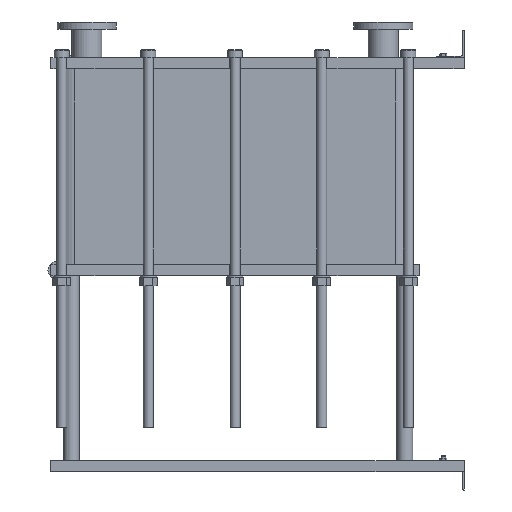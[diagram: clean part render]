
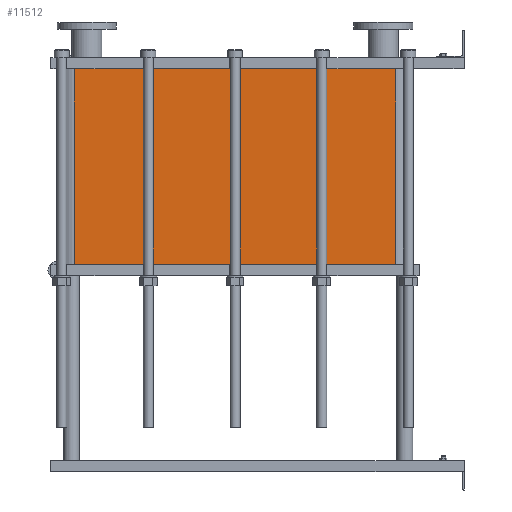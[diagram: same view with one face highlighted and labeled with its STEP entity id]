
A CAD part, left-side view. The second image highlights one B-rep face of the part: STEP entity #11512.
In plain terms, the highlighted planar face has unit normal (-1, 0, 0).
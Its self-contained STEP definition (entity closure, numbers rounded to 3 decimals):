
#1129=LINE('',#23232,#2102);
#1130=LINE('',#23236,#2103);
#1131=LINE('',#23238,#2104);
#1132=LINE('',#23239,#2105);
#2102=VECTOR('',#15887,10.);
#2103=VECTOR('',#15892,10.);
#2104=VECTOR('',#15893,10.);
#2105=VECTOR('',#15894,10.);
#3267=FACE_OUTER_BOUND('',#4093,.T.);
#4093=EDGE_LOOP('',(#10103,#10104,#10105,#10106));
#5642=VERTEX_POINT('',#23229);
#5643=VERTEX_POINT('',#23231);
#5644=VERTEX_POINT('',#23235);
#5645=VERTEX_POINT('',#23237);
#7159=EDGE_CURVE('',#5643,#5642,#1129,.T.);
#7161=EDGE_CURVE('',#5642,#5644,#1130,.T.);
#7162=EDGE_CURVE('',#5645,#5644,#1131,.T.);
#7163=EDGE_CURVE('',#5645,#5643,#1132,.T.);
#10103=ORIENTED_EDGE('',*,*,#7161,.T.);
#10104=ORIENTED_EDGE('',*,*,#7162,.F.);
#10105=ORIENTED_EDGE('',*,*,#7163,.T.);
#10106=ORIENTED_EDGE('',*,*,#7159,.T.);
#10857=PLANE('',#12751);
#11512=ADVANCED_FACE('',(#3267),#10857,.T.);
#12751=AXIS2_PLACEMENT_3D('',#23234,#15890,#15891);
#15887=DIRECTION('',(0.,0.,-1.));
#15890=DIRECTION('center_axis',(-1.,0.,0.));
#15891=DIRECTION('ref_axis',(0.,1.,0.));
#15892=DIRECTION('',(0.,-1.,0.));
#15893=DIRECTION('',(0.,0.,-1.));
#15894=DIRECTION('',(0.,1.,0.));
#23229=CARTESIAN_POINT('',(-200.,1414.,-710.7));
#23231=CARTESIAN_POINT('',(-200.,1414.,0.));
#23232=CARTESIAN_POINT('',(-200.,1414.,0.));
#23234=CARTESIAN_POINT('Origin',(-200.,248.,0.));
#23235=CARTESIAN_POINT('',(-200.,248.,-710.7));
#23236=CARTESIAN_POINT('',(-200.,539.5,-710.7));
#23237=CARTESIAN_POINT('',(-200.,248.,0.));
#23238=CARTESIAN_POINT('',(-200.,248.,0.));
#23239=CARTESIAN_POINT('',(-200.,248.,0.));
